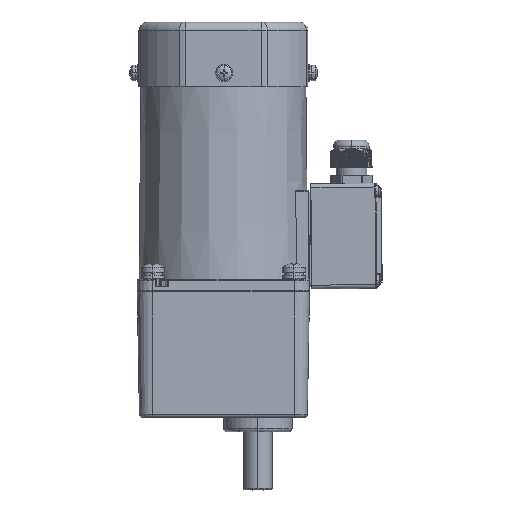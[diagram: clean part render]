
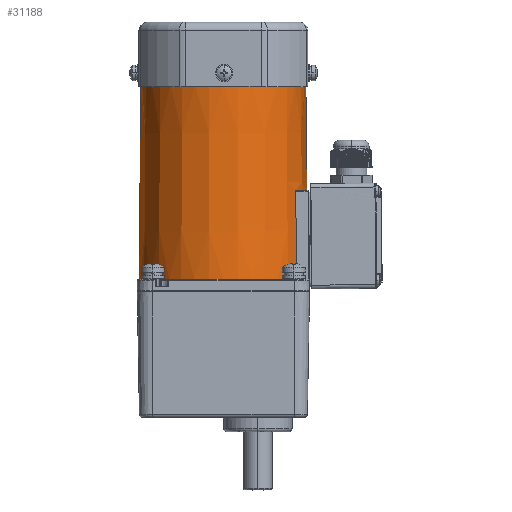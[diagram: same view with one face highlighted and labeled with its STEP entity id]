
A CAD part, front view. The second image highlights one B-rep face of the part: STEP entity #31188.
In plain terms, the highlighted conical face has half-angle 0.5 degrees and reference radius 43.555 mm.
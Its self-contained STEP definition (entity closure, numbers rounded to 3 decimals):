
#703 = DIRECTION ( 'NONE',  ( 0.009, 0., -1. ) ) ;
#738 = AXIS2_PLACEMENT_3D ( 'NONE', #19653, #40376, #61101 ) ;
#974 = CARTESIAN_POINT ( 'NONE',  ( 0., 0., 7. ) ) ;
#3682 = ORIENTED_EDGE ( 'NONE', *, *, #42105, .T. ) ;
#4541 = VECTOR ( 'NONE', #58011, 1000. ) ;
#5499 = ORIENTED_EDGE ( 'NONE', *, *, #21016, .T. ) ;
#7510 = CARTESIAN_POINT ( 'NONE',  ( 37.872, -21.597, 53.203 ) ) ;
#8143 = AXIS2_PLACEMENT_3D ( 'NONE', #974, #21496, #42265 ) ;
#8805 = AXIS2_PLACEMENT_3D ( 'NONE', #24420, #45224, #65905 ) ;
#10145 = B_SPLINE_CURVE_WITH_KNOTS ( 'NONE', 3,
 ( #25052, #45870, #66535, #20015 ),
 .UNSPECIFIED., .F., .F.,
 ( 4, 4 ),
 ( 0., 1. ),
 .UNSPECIFIED. ) ;
#10511 = CARTESIAN_POINT ( 'NONE',  ( 43.594, 0., 53.5 ) ) ;
#13718 = VERTEX_POINT ( 'NONE', #36274 ) ;
#14249 = CARTESIAN_POINT ( 'NONE',  ( 38.038, -21.297, 53.5 ) ) ;
#16088 = CIRCLE ( 'NONE', #53981, 43.11 ) ;
#16394 = CARTESIAN_POINT ( 'NONE',  ( -44., 0., 7. ) ) ;
#16631 = LINE ( 'NONE', #37297, #4541 ) ;
#19246 = CARTESIAN_POINT ( 'NONE',  ( 37.886, -21.569, 53.35 ) ) ;
#19653 = CARTESIAN_POINT ( 'NONE',  ( 0., 0., 58. ) ) ;
#20003 = ORIENTED_EDGE ( 'NONE', *, *, #36122, .F. ) ;
#20015 = CARTESIAN_POINT ( 'NONE',  ( 37.872, -21.597, 53.203 ) ) ;
#21016 = EDGE_CURVE ( 'NONE', #39125, #13718, #37243, .T. ) ;
#21496 = DIRECTION ( 'NONE',  ( 0., 0., 1. ) ) ;
#22068 = CARTESIAN_POINT ( 'NONE',  ( 0., 0., 109. ) ) ;
#23709 = EDGE_CURVE ( 'NONE', #35860, #61744, #37907, .T. ) ;
#23792 = B_SPLINE_CURVE_WITH_KNOTS ( 'NONE', 3,
 ( #45096, #65768, #19246, #39972, #60689, #14249 ),
 .UNSPECIFIED., .F., .F.,
 ( 4, 2, 4 ),
 ( 0., 0.5, 1. ),
 .UNSPECIFIED. ) ;
#24420 = CARTESIAN_POINT ( 'NONE',  ( 0., 0., 53.5 ) ) ;
#25052 = CARTESIAN_POINT ( 'NONE',  ( 38.105, -22., 7. ) ) ;
#26286 = LINE ( 'NONE', #47075, #34086 ) ;
#28673 = ORIENTED_EDGE ( 'NONE', *, *, #56219, .T. ) ;
#29813 = CONICAL_SURFACE ( 'NONE', #738, 43.555, 0.009 ) ;
#31188 = ADVANCED_FACE ( 'NONE', ( #66180 ), #29813, .T. ) ;
#32938 = CARTESIAN_POINT ( 'NONE',  ( 43.11, 0., 109. ) ) ;
#34086 = VECTOR ( 'NONE', #703, 1000. ) ;
#35860 = VERTEX_POINT ( 'NONE', #43734 ) ;
#36122 = EDGE_CURVE ( 'NONE', #43091, #61744, #26286, .T. ) ;
#36274 = CARTESIAN_POINT ( 'NONE',  ( 38.105, -22., 7. ) ) ;
#37041 = EDGE_LOOP ( 'NONE', ( #20003, #46608, #3682, #5499, #28673, #61785, #60088 ) ) ;
#37243 = CIRCLE ( 'NONE', #8143, 44. ) ;
#37297 = CARTESIAN_POINT ( 'NONE',  ( -43.11, 0., 109. ) ) ;
#37907 = CIRCLE ( 'NONE', #8805, 43.594 ) ;
#39125 = VERTEX_POINT ( 'NONE', #16394 ) ;
#39972 = CARTESIAN_POINT ( 'NONE',  ( 37.948, -21.457, 53.466 ) ) ;
#40376 = DIRECTION ( 'NONE',  ( 0., 0., -1. ) ) ;
#42105 = EDGE_CURVE ( 'NONE', #58165, #39125, #16631, .T. ) ;
#42265 = DIRECTION ( 'NONE',  ( -1., 0., 0. ) ) ;
#42724 = VERTEX_POINT ( 'NONE', #7510 ) ;
#42836 = DIRECTION ( 'NONE',  ( 0., 0., 1. ) ) ;
#43091 = VERTEX_POINT ( 'NONE', #32938 ) ;
#43734 = CARTESIAN_POINT ( 'NONE',  ( 38.038, -21.297, 53.5 ) ) ;
#44722 = CARTESIAN_POINT ( 'NONE',  ( -43.11, 0., 109. ) ) ;
#45096 = CARTESIAN_POINT ( 'NONE',  ( 37.872, -21.597, 53.203 ) ) ;
#45224 = DIRECTION ( 'NONE',  ( 0., 0., 1. ) ) ;
#45870 = CARTESIAN_POINT ( 'NONE',  ( 38.028, -21.866, 22.401 ) ) ;
#46608 = ORIENTED_EDGE ( 'NONE', *, *, #55145, .F. ) ;
#47075 = CARTESIAN_POINT ( 'NONE',  ( 43.11, 0., 109. ) ) ;
#47551 = EDGE_CURVE ( 'NONE', #42724, #35860, #23792, .T. ) ;
#53981 = AXIS2_PLACEMENT_3D ( 'NONE', #22068, #42836, #63541 ) ;
#55145 = EDGE_CURVE ( 'NONE', #58165, #43091, #16088, .T. ) ;
#56219 = EDGE_CURVE ( 'NONE', #13718, #42724, #10145, .T. ) ;
#58011 = DIRECTION ( 'NONE',  ( -0.009, 0., -1. ) ) ;
#58165 = VERTEX_POINT ( 'NONE', #44722 ) ;
#60088 = ORIENTED_EDGE ( 'NONE', *, *, #23709, .T. ) ;
#60689 = CARTESIAN_POINT ( 'NONE',  ( 37.992, -21.38, 53.5 ) ) ;
#61101 = DIRECTION ( 'NONE',  ( 1., 0., 0. ) ) ;
#61744 = VERTEX_POINT ( 'NONE', #10511 ) ;
#61785 = ORIENTED_EDGE ( 'NONE', *, *, #47551, .T. ) ;
#63541 = DIRECTION ( 'NONE',  ( -1., 0., 0. ) ) ;
#65768 = CARTESIAN_POINT ( 'NONE',  ( 37.871, -21.596, 53.279 ) ) ;
#65905 = DIRECTION ( 'NONE',  ( 0.873, -0.489, 0. ) ) ;
#66180 = FACE_OUTER_BOUND ( 'NONE', #37041, .T. ) ;
#66535 = CARTESIAN_POINT ( 'NONE',  ( 37.95, -21.731, 37.802 ) ) ;
